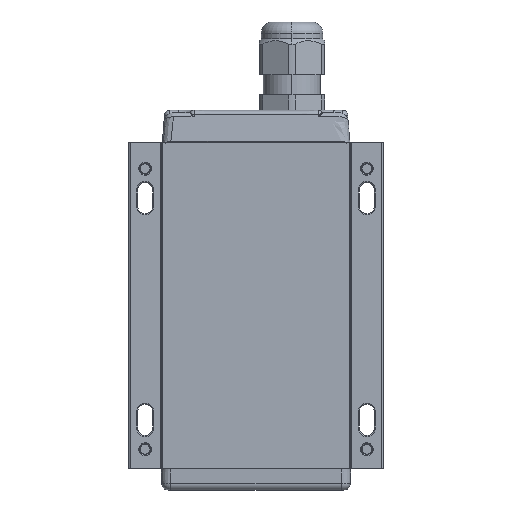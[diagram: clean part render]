
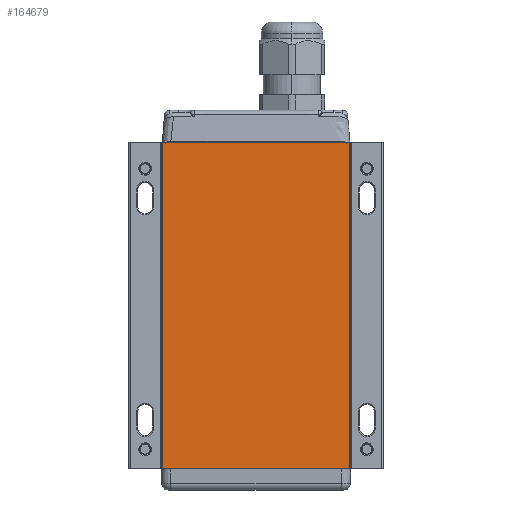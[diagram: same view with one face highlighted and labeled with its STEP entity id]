
A CAD part, front view. The second image highlights one B-rep face of the part: STEP entity #164679.
In plain terms, the highlighted planar face has unit normal (0, -1, 0).
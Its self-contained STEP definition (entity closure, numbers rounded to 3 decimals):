
#14050 = ORIENTED_EDGE ( 'NONE', *, *, #99560, .T. ) ;
#23485 = CARTESIAN_POINT ( 'NONE',  ( 29., -23.5, 100.5 ) ) ;
#31919 = EDGE_CURVE ( 'NONE', #149192, #148876, #94514, .T. ) ;
#38427 = VERTEX_POINT ( 'NONE', #71907 ) ;
#38732 = DIRECTION ( 'NONE',  ( -1., 0., 0. ) ) ;
#43532 = VERTEX_POINT ( 'NONE', #61479 ) ;
#44148 = DIRECTION ( 'NONE',  ( 0., 0., 1. ) ) ;
#49401 = DIRECTION ( 'NONE',  ( 0., 0., -1. ) ) ;
#50843 = CARTESIAN_POINT ( 'NONE',  ( 29., -23.5, 0. ) ) ;
#54173 = VECTOR ( 'NONE', #49401, 1000. ) ;
#61479 = CARTESIAN_POINT ( 'NONE',  ( 28.8, -23.5, 100. ) ) ;
#64191 = AXIS2_PLACEMENT_3D ( 'NONE', #23485, #129581, #38732 ) ;
#71907 = CARTESIAN_POINT ( 'NONE',  ( 28.8, -23.5, 0. ) ) ;
#72711 = LINE ( 'NONE', #172733, #148756 ) ;
#74136 = EDGE_CURVE ( 'NONE', #43532, #149192, #72711, .T. ) ;
#92561 = VECTOR ( 'NONE', #142353, 1000. ) ;
#94514 = LINE ( 'NONE', #125026, #54173 ) ;
#98008 = CARTESIAN_POINT ( 'NONE',  ( -28.8, -23.5, 100. ) ) ;
#99560 = EDGE_CURVE ( 'NONE', #148876, #38427, #132961, .T. ) ;
#110163 = VECTOR ( 'NONE', #44148, 1000. ) ;
#114008 = FACE_OUTER_BOUND ( 'NONE', #143159, .T. ) ;
#120793 = CARTESIAN_POINT ( 'NONE',  ( -28.8, -23.5, 0. ) ) ;
#125026 = CARTESIAN_POINT ( 'NONE',  ( -28.8, -23.5, 0. ) ) ;
#129581 = DIRECTION ( 'NONE',  ( 0., 1., 0. ) ) ;
#132961 = LINE ( 'NONE', #50843, #92561 ) ;
#133241 = ORIENTED_EDGE ( 'NONE', *, *, #31919, .T. ) ;
#134942 = CARTESIAN_POINT ( 'NONE',  ( 28.8, -23.5, 100. ) ) ;
#142353 = DIRECTION ( 'NONE',  ( 1., 0., 0. ) ) ;
#143159 = EDGE_LOOP ( 'NONE', ( #186383, #133241, #14050, #172783 ) ) ;
#144155 = PLANE ( 'NONE',  #64191 ) ;
#148756 = VECTOR ( 'NONE', #187353, 1000. ) ;
#148876 = VERTEX_POINT ( 'NONE', #120793 ) ;
#149192 = VERTEX_POINT ( 'NONE', #98008 ) ;
#164679 = ADVANCED_FACE ( 'NONE', ( #114008 ), #144155, .F. ) ;
#172733 = CARTESIAN_POINT ( 'NONE',  ( 29., -23.5, 100. ) ) ;
#172783 = ORIENTED_EDGE ( 'NONE', *, *, #188548, .T. ) ;
#186383 = ORIENTED_EDGE ( 'NONE', *, *, #74136, .T. ) ;
#187353 = DIRECTION ( 'NONE',  ( -1., 0., 0. ) ) ;
#188548 = EDGE_CURVE ( 'NONE', #38427, #43532, #190836, .T. ) ;
#190836 = LINE ( 'NONE', #134942, #110163 ) ;
